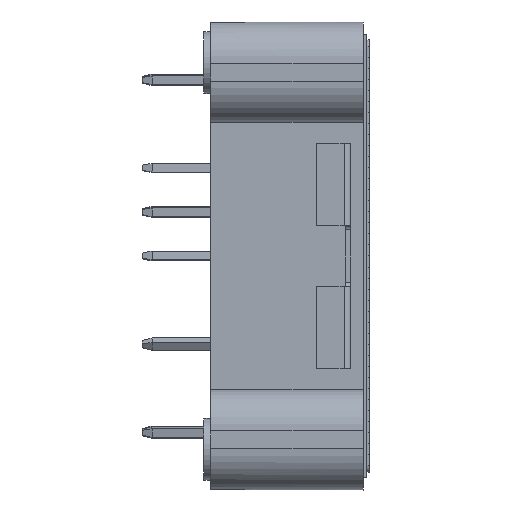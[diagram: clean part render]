
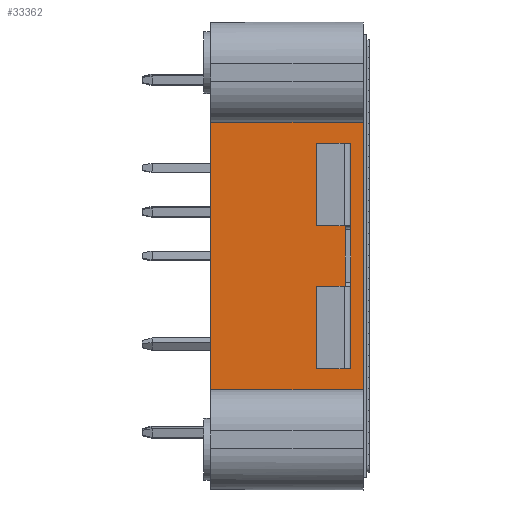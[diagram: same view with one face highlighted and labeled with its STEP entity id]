
A CAD part, left-side view. The second image highlights one B-rep face of the part: STEP entity #33362.
In plain terms, the highlighted planar face has unit normal (-1, 0, 0).
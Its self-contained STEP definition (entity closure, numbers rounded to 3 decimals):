
#16180=DIRECTION('',(0.,-1.,0.));
#16181=VECTOR('',#16180,19.4);
#16182=CARTESIAN_POINT('',(-20.5,9.7,11.5));
#16183=LINE('',#16182,#16181);
#16832=DIRECTION('',(0.,0.,-1.));
#16833=VECTOR('',#16832,11.1);
#16834=CARTESIAN_POINT('',(-20.5,9.7,11.5));
#16835=LINE('',#16834,#16833);
#16839=DIRECTION('',(0.,0.,1.));
#16840=VECTOR('',#16839,11.1);
#16841=CARTESIAN_POINT('',(-20.5,-9.7,0.4));
#16842=LINE('',#16841,#16840);
#16846=DIRECTION('',(0.,-1.,0.));
#16847=VECTOR('',#16846,19.4);
#16848=CARTESIAN_POINT('',(-20.5,9.7,0.4));
#16849=LINE('',#16848,#16847);
#29555=CARTESIAN_POINT('',(-20.5,-9.7,0.4));
#29556=CARTESIAN_POINT('',(-20.5,-9.7,11.5));
#29557=VERTEX_POINT('',#29555);
#29558=VERTEX_POINT('',#29556);
#29615=CARTESIAN_POINT('',(-20.5,9.7,11.5));
#29616=VERTEX_POINT('',#29615);
#31233=CARTESIAN_POINT('',(-20.5,9.7,0.4));
#31234=VERTEX_POINT('',#31233);
#33351=CARTESIAN_POINT('',(-20.5,0.,5.95));
#33352=DIRECTION('',(-1.,0.,0.));
#33353=DIRECTION('',(0.,1.,0.));
#33354=AXIS2_PLACEMENT_3D('',#33351,#33352,#33353);
#33355=PLANE('',#33354);
#33356=ORIENTED_EDGE('',*,*,#33337,.F.);
#33357=ORIENTED_EDGE('',*,*,#32726,.T.);
#33358=ORIENTED_EDGE('',*,*,#32775,.F.);
#33359=ORIENTED_EDGE('',*,*,#32817,.F.);
#33360=EDGE_LOOP('',(#33356,#33357,#33358,#33359));
#33361=FACE_OUTER_BOUND('',#33360,.F.);
#33362=ADVANCED_FACE('',(#33361),#33355,.T.);
#32726=EDGE_CURVE('',#29616,#29558,#16183,.T.);
#32775=EDGE_CURVE('',#29557,#29558,#16842,.T.);
#32817=EDGE_CURVE('',#31234,#29557,#16849,.T.);
#33337=EDGE_CURVE('',#29616,#31234,#16835,.T.);
